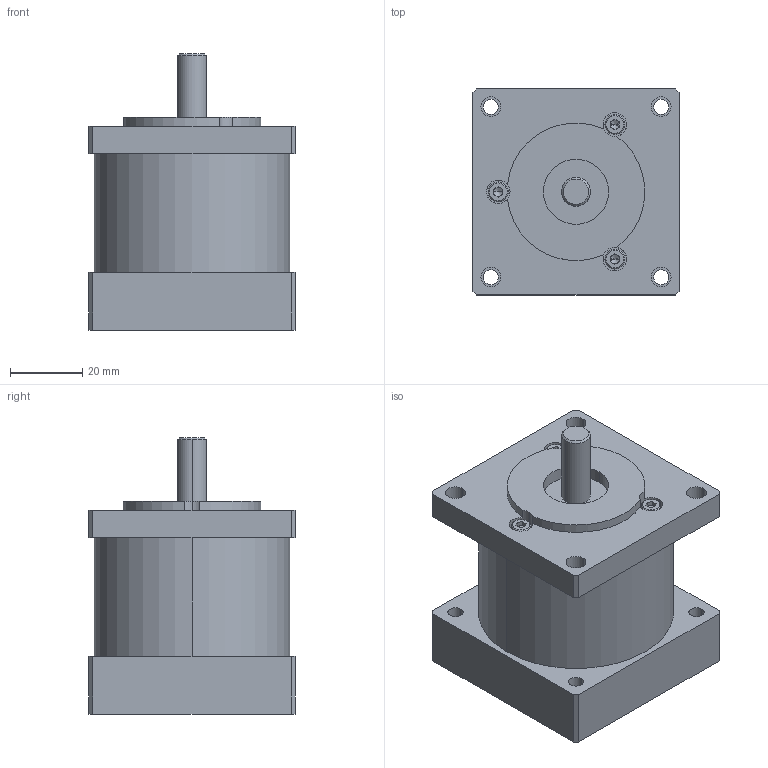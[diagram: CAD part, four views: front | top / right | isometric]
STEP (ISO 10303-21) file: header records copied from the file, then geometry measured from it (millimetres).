
FILE_DESCRIPTION (( 'STEP AP214' ), '1' );
FILE_NAME ('MPC023-24-XXX.STEP', '2015-05-21T21:13:08', ( '' ), ( '' ), 'SwSTEP 2.0', 'SolidWorks 2015', '' );
FILE_SCHEMA (( 'AUTOMOTIVE_DESIGN' ));
Length unit declared in the file: millimetre
Products named in the file (1): MPC023-24-XXX
Bounding box: 57 x 57 x 76.5 mm (x, y, z)
Volume: 138712 mm3; surface area: 24348.1 mm2
Topology: 4 solids, 4 shells, 168 faces, 392 edges, 236 vertices
Faces by surface type: plane 73, cylinder 55, cone 34, torus 6
Entity records: 6697 total; most frequent: DIRECTION 882, CARTESIAN_POINT 847, ORIENTED_EDGE 760, EDGE_CURVE 380, AXIS2_PLACEMENT_3D 335, VERTEX_POINT 236, VECTOR 212, LINE 212
